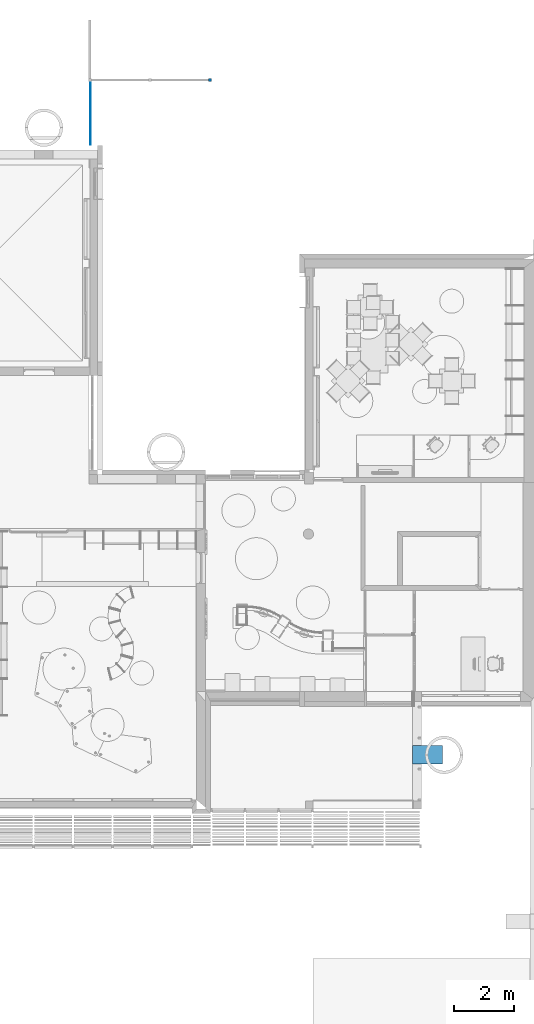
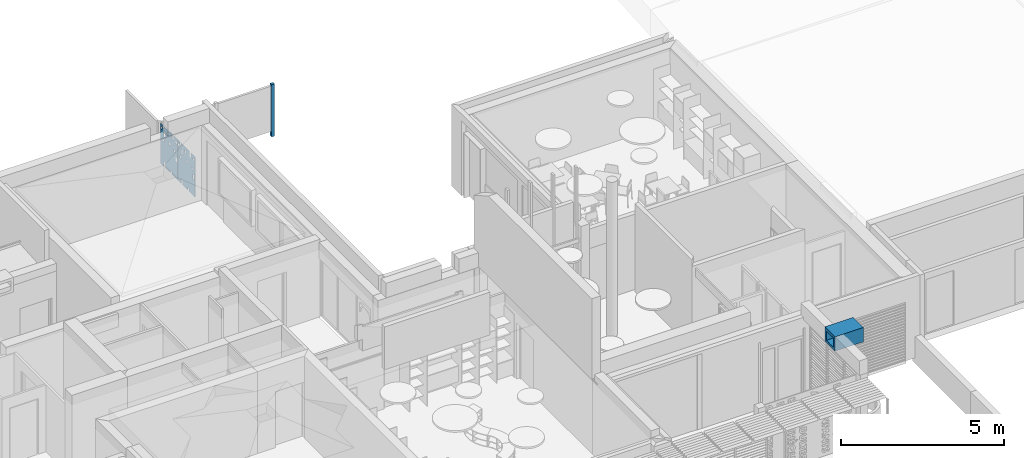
# One storey, part 6 of 64: 3 beams, 1 column.
"""IFC2X3 building model written with IfcOpenShell, lengths in metres."""

import ifcopenshell
import ifcopenshell.guid

model = None  # the IFC model being written
_history = None  # IfcOwnerHistory: only IFC2X3 demands one
_inside = {}  # id of a spatial element -> (the spatial element, [elements in it])
_under = {}  # id of a project, library or spatial element -> (it, [spatial elements below it])
_declared = {}  # id of a project -> (the project, [libraries it declares])
_typed = {}  # id of a type object -> (the type object, [elements of that type])
_made_of = {}  # id of a material, layer set ... -> (it, [elements and type objects made of it])


def new_model(schema):
    """Start an empty IFC model of exactly this schema.

    Asked for "IFC4X3", IfcOpenShell would pick the latest addendum, in which some entities
    have other attributes; the version numbers below select the first issue.
    IFC2X3 requires an IfcOwnerHistory on every rooted entity: one is made here for all.
    """
    global model, _history
    if schema == "IFC4X3":
        model = ifcopenshell.file(schema_version=(4, 3, 0, 0))
    else:
        model = ifcopenshell.file(schema=schema)
    _inside.clear()
    _under.clear()
    _declared.clear()
    _typed.clear()
    _made_of.clear()
    _history = None
    if model.schema == "IFC2X3":
        org = make("IfcOrganization", Name="unknown")
        user = make(
            "IfcPersonAndOrganization",
            ThePerson=make("IfcPerson", FamilyName="unknown"),
            TheOrganization=org,
        )
        app = make(
            "IfcApplication",
            ApplicationDeveloper=org,
            Version="unknown",
            ApplicationFullName="unknown",
            ApplicationIdentifier="unknown",
        )
        _history = make(
            "IfcOwnerHistory",
            OwningUser=user,
            OwningApplication=app,
            ChangeAction="ADDED",
            CreationDate=0,
        )
    return model


def make(cls, **values):
    """One entity of the class cls with the attributes given. An attribute that is None is left unset."""
    return model.create_entity(
        cls, **{name: value for name, value in values.items() if value is not None}
    )


def entity(cls, *values):
    """Any entity or typed value of the class cls, its attributes in the order of the schema. None: left unset."""
    e = model.create_entity(cls)
    for i, value in enumerate(values):
        if value is not None:
            e[i] = value
    return e


def rooted(cls, **values):
    """An entity with a GlobalId (a new one), such as an element, a storey or a relation."""
    return make(cls, GlobalId=ifcopenshell.guid.new(), OwnerHistory=_history, **values)


def si_unit(unit_type, name, prefix=None):
    """IfcSIUnit, for example si_unit("LENGTHUNIT", "METRE", prefix="MILLI")."""
    return make("IfcSIUnit", UnitType=unit_type, Prefix=prefix, Name=name)


def converted_unit(unit_type, name, factor, base, dimensions=None, offset=None):
    """IfcConversionBasedUnit, such as the inch: factor (a typed value) times the base unit."""
    return make(
        "IfcConversionBasedUnit"
        if offset is None
        else "IfcConversionBasedUnitWithOffset",
        ConversionOffset=offset,
        Dimensions=None
        if dimensions is None
        else entity("IfcDimensionalExponents", *dimensions),
        UnitType=unit_type,
        Name=name,
        ConversionFactor=make(
            "IfcMeasureWithUnit", ValueComponent=factor, UnitComponent=base
        ),
    )


def derived_unit(unit_type, elements):
    """IfcDerivedUnit: a product of units, each with its exponent."""
    return make(
        "IfcDerivedUnit",
        Elements=[
            make("IfcDerivedUnitElement", Unit=unit, Exponent=power)
            for unit, power in elements
        ],
        UnitType=unit_type,
    )


def assignment(units):
    """IfcUnitAssignment: the units of a project."""
    return None if units is None else make("IfcUnitAssignment", Units=units)


def point(xyz):
    """IfcCartesianPoint."""
    return None if xyz is None else make("IfcCartesianPoint", Coordinates=xyz)


def direction(xyz):
    """IfcDirection."""
    return None if xyz is None else make("IfcDirection", DirectionRatios=xyz)


def frame(location, z_axis=None, x_axis=None):
    """IfcAxis2Placement3D, a coordinate frame: its origin and axes. An axis left out is left unset."""
    return make(
        "IfcAxis2Placement3D",
        Location=point(location),
        Axis=direction(z_axis),
        RefDirection=direction(x_axis),
    )


def frame_2d(location, x_axis=None):
    """IfcAxis2Placement2D, a coordinate frame in the plane: its origin and x axis."""
    return make(
        "IfcAxis2Placement2D", Location=point(location), RefDirection=direction(x_axis)
    )


def origin():
    """The frame at (0, 0, 0) with its axes left unset."""
    return frame((0.0, 0.0, 0.0))


def origin_2d_with_axis():
    """The frame at (0, 0) in the plane with the x axis (1, 0) written out."""
    return frame_2d((0.0, 0.0), x_axis=(1.0, 0.0))


def place(relative_to, where):
    """IfcLocalPlacement: puts the frame where relative to a parent placement (None: the world)."""
    return make(
        "IfcLocalPlacement", PlacementRelTo=relative_to, RelativePlacement=where
    )


def context(
    kind, dimensions, precision=None, world=None, true_north=None, identifier=None
):
    """IfcGeometricRepresentationContext, for example the 3D "Model" context."""
    return make(
        "IfcGeometricRepresentationContext",
        ContextIdentifier=identifier,
        ContextType=kind,
        CoordinateSpaceDimension=dimensions,
        Precision=precision,
        WorldCoordinateSystem=world,
        TrueNorth=true_north,
    )


def subcontext(parent, identifier, kind, view, scale=None):
    """IfcGeometricRepresentationSubContext, for example "Body" below "Model"."""
    return make(
        "IfcGeometricRepresentationSubContext",
        ContextIdentifier=identifier,
        ContextType=kind,
        ParentContext=parent,
        TargetScale=scale,
        TargetView=view,
    )


def project(units=None, contexts=None):
    """IfcProject with its units and contexts."""
    return rooted(
        "IfcProject",
        Name="project",
        RepresentationContexts=contexts,
        UnitsInContext=assignment(units),
    )


def spatial(cls, under=None, at=None, **own):
    """A site, building, storey or space (cls), placed at a placement, below another one or the project."""
    s = rooted(cls, ObjectPlacement=at, **own)
    if under is not None:
        _under.setdefault(under.id(), (under, []))[1].append(s)
    return s


def polyline(points):
    """IfcPolyline through the points."""
    return make("IfcPolyline", Points=[point(p) for p in points])


def profile(cls, at=None, kind="AREA", **sizes):
    """A parametric profile (cls). Its sizes go by their IFC names, for example OverallWidth=200.0."""
    return make(cls, ProfileType=kind, Position=at, **sizes)


def rectangle(**sizes):
    """IfcRectangleProfileDef."""
    return profile("IfcRectangleProfileDef", **sizes)


def outline(outer, holes=None, kind="AREA"):
    """IfcArbitraryClosedProfileDef: a profile drawn as a closed curve; with holes, ...WithVoids."""
    if holes is None:
        return make("IfcArbitraryClosedProfileDef", ProfileType=kind, OuterCurve=outer)
    return make(
        "IfcArbitraryProfileDefWithVoids",
        ProfileType=kind,
        OuterCurve=outer,
        InnerCurves=holes,
    )


def extrude(swept, where, along, depth):
    """IfcExtrudedAreaSolid: the profile swept, set in the frame where, extruded along a direction by depth."""
    return make(
        "IfcExtrudedAreaSolid",
        SweptArea=swept,
        Position=where,
        ExtrudedDirection=direction(along),
        Depth=depth,
    )


def shape(context_of_items, identifier, shape_type, items):
    """IfcShapeRepresentation: the items that make up one representation, for example the "Body"."""
    return make(
        "IfcShapeRepresentation",
        ContextOfItems=context_of_items,
        RepresentationIdentifier=identifier,
        RepresentationType=shape_type,
        Items=items,
    )


def source(mapping_origin, context_of_items, identifier, shape_type, items):
    """IfcRepresentationMap: a shape defined once, which mapped items show again and again."""
    return make(
        "IfcRepresentationMap",
        MappingOrigin=mapping_origin,
        MappedRepresentation=shape(context_of_items, identifier, shape_type, items),
    )


def transform(
    local_origin,
    x_axis=None,
    y_axis=None,
    z_axis=None,
    scale=None,
    scale2=None,
    scale3=None,
    uniform=True,
):
    """IfcCartesianTransformationOperator3D, or its non-uniform kind. x_axis, y_axis, z_axis: its Axis1, 2, 3."""
    if uniform:
        return make(
            "IfcCartesianTransformationOperator3D",
            Axis1=direction(x_axis),
            Axis2=direction(y_axis),
            LocalOrigin=point(local_origin),
            Scale=scale,
            Axis3=direction(z_axis),
        )
    return make(
        "IfcCartesianTransformationOperator3DnonUniform",
        Axis1=direction(x_axis),
        Axis2=direction(y_axis),
        LocalOrigin=point(local_origin),
        Scale=scale,
        Axis3=direction(z_axis),
        Scale2=scale2,
        Scale3=scale3,
    )


def mapped(mapping_source, mapping_target):
    """IfcMappedItem: shows the shape of a source again, moved by a transform."""
    return make(
        "IfcMappedItem", MappingSource=mapping_source, MappingTarget=mapping_target
    )


def material(Name=None, Category=None):
    """IfcMaterial."""
    return make("IfcMaterial", Name=Name, Category=Category)


def made_of(thing, what):
    """Note that an element or type object is made of a material, layer set ...; save() writes the relation."""
    if what is not None:
        _made_of.setdefault(what.id(), (what, []))[1].append(thing)
    return thing


def type_object(cls, material=None, **own):
    """A type object (cls), such as IfcWallType, which elements share."""
    return made_of(rooted(cls, **own), material)


def type_shapes(of_type, sources):
    """Give a type object the sources (RepresentationMaps) that its elements show as mapped items."""
    of_type.RepresentationMaps = sources


def element(
    cls,
    number,
    at=None,
    inside=None,
    cuts=None,
    type_object=None,
    material=None,
    context=None,
    identifier="Body",
    shape_type=None,
    held_by="IfcProductDefinitionShape",
    body=None,
    shapes=None,
    **own,
):
    """One element of the class cls, such as IfcWall. Its Tag is "e" and its number.

    at: its placement. inside: the storey or other place that contains it. cuts: it is an
    opening in that element (IfcRelVoidsElement). A single representation is given by context,
    identifier, shape_type and body (its items); several are given by shapes. held_by: the class
    of the entity that holds the representations. save() writes the other relations.
    """
    e = rooted(cls, Tag="e%d" % number, ObjectPlacement=at, **own)
    if body is not None:
        shapes = [shape(context, identifier, shape_type, body)]
    if shapes is not None:
        e.Representation = make(held_by, Representations=shapes)
    if inside is not None:
        _inside.setdefault(inside.id(), (inside, []))[1].append(e)
    if cuts is not None:
        rooted(
            "IfcRelVoidsElement", RelatingBuildingElement=cuts, RelatedOpeningElement=e
        )
    if type_object is not None:
        _typed.setdefault(type_object.id(), (type_object, []))[1].append(e)
    return made_of(e, material)


def aggregate(whole, parts):
    """IfcRelAggregates: a whole, such as a stair, and the parts it consists of."""
    return rooted("IfcRelAggregates", RelatingObject=whole, RelatedObjects=parts)


def save(model, path):
    """Write the relations noted so far, then the file.

    IfcRelAggregates (storeys below a building ...), IfcRelContainedInSpatialStructure (elements
    in a storey), IfcRelDefinesByType, IfcRelAssociatesMaterial and IfcRelDeclares: one each for
    every whole, place, type object, material and project.
    """
    for whole, parts in _under.values():
        aggregate(whole, parts)
    for where, things in _inside.values():
        rooted(
            "IfcRelContainedInSpatialStructure",
            RelatedElements=things,
            RelatingStructure=where,
        )
    for kind, things in _typed.values():
        rooted("IfcRelDefinesByType", RelatedObjects=things, RelatingType=kind)
    for what, things in _made_of.values():
        rooted("IfcRelAssociatesMaterial", RelatedObjects=things, RelatingMaterial=what)
    for by, libraries in _declared.values():
        rooted("IfcRelDeclares", RelatingContext=by, RelatedDefinitions=libraries)
    model.write(path)


model = new_model("IFC2X3")

# Units and contexts
model_context = context("Model", 3, precision=1e-05, world=origin(), true_north=direction((6.123031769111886e-17, 1.0)))
body_context = subcontext(model_context, "Body", "Model", "MODEL_VIEW")
ifc_project = project(units=[si_unit("LENGTHUNIT", "METRE"), si_unit("AREAUNIT", "SQUARE_METRE"), si_unit("VOLUMEUNIT", "CUBIC_METRE"), converted_unit("PLANEANGLEUNIT", "DEGREE", entity("IfcRatioMeasure", 0.017453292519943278), si_unit("PLANEANGLEUNIT", "RADIAN"), dimensions=[0, 0, 0, 0, 0, 0, 0]), si_unit("MASSUNIT", "GRAM", prefix="KILO"), derived_unit("MASSDENSITYUNIT", [(si_unit("MASSUNIT", "GRAM", prefix="KILO"), 1), (si_unit("LENGTHUNIT", "METRE"), -3)]), derived_unit("MOMENTOFINERTIAUNIT", [(si_unit("LENGTHUNIT", "METRE"), 4)]), si_unit("TIMEUNIT", "SECOND"), si_unit("FREQUENCYUNIT", "HERTZ"), si_unit("THERMODYNAMICTEMPERATUREUNIT", "DEGREE_CELSIUS"), derived_unit("THERMALTRANSMITTANCEUNIT", [(si_unit("MASSUNIT", "GRAM", prefix="KILO"), 1), (si_unit("THERMODYNAMICTEMPERATUREUNIT", "KELVIN"), -1), (si_unit("TIMEUNIT", "SECOND"), -3)]), derived_unit("THERMALCONDUCTANCEUNIT", [(si_unit("MASSUNIT", "GRAM", prefix="KILO"), 1), (si_unit("LENGTHUNIT", "METRE"), 1), (si_unit("THERMODYNAMICTEMPERATUREUNIT", "KELVIN"), -1), (si_unit("TIMEUNIT", "SECOND"), -3)]), derived_unit("VOLUMETRICFLOWRATEUNIT", [(si_unit("LENGTHUNIT", "METRE"), 3), (si_unit("TIMEUNIT", "SECOND"), -1)]), derived_unit("MASSFLOWRATEUNIT", [(si_unit("MASSUNIT", "GRAM", prefix="KILO"), 1), (si_unit("TIMEUNIT", "SECOND"), -1)]), derived_unit("ROTATIONALFREQUENCYUNIT", [(si_unit("TIMEUNIT", "SECOND"), -1)]), si_unit("ELECTRICCURRENTUNIT", "AMPERE"), si_unit("ELECTRICVOLTAGEUNIT", "VOLT"), si_unit("POWERUNIT", "WATT"), si_unit("FORCEUNIT", "NEWTON", prefix="KILO"), si_unit("ILLUMINANCEUNIT", "LUX"), si_unit("LUMINOUSFLUXUNIT", "LUMEN"), si_unit("LUMINOUSINTENSITYUNIT", "CANDELA"), derived_unit("USERDEFINED", [(si_unit("MASSUNIT", "GRAM", prefix="KILO"), -1), (si_unit("LENGTHUNIT", "METRE"), -2), (si_unit("TIMEUNIT", "SECOND"), 3), (si_unit("LUMINOUSFLUXUNIT", "LUMEN"), 1)]), derived_unit("USERDEFINED", [(si_unit("MASSUNIT", "GRAM", prefix="KILO"), 1), (si_unit("LENGTHUNIT", "METRE"), 3), (si_unit("TIMEUNIT", "SECOND"), -3), (si_unit("ELECTRICCURRENTUNIT", "AMPERE"), -2)]), derived_unit("USERDEFINED", [(si_unit("LENGTHUNIT", "METRE"), 2), (si_unit("TIMEUNIT", "SECOND"), -2)]), derived_unit("SOUNDPOWERUNIT", [(si_unit("MASSUNIT", "GRAM", prefix="KILO"), 1), (si_unit("LENGTHUNIT", "METRE"), 2), (si_unit("TIMEUNIT", "SECOND"), -3)]), derived_unit("SOUNDPRESSUREUNIT", [(si_unit("MASSUNIT", "GRAM", prefix="KILO"), 1), (si_unit("LENGTHUNIT", "METRE"), -1), (si_unit("TIMEUNIT", "SECOND"), -2)]), derived_unit("LINEARVELOCITYUNIT", [(si_unit("LENGTHUNIT", "METRE"), 1), (si_unit("TIMEUNIT", "SECOND"), -1)]), si_unit("PRESSUREUNIT", "PASCAL"), derived_unit("USERDEFINED", [(si_unit("LENGTHUNIT", "METRE"), -2), (si_unit("MASSUNIT", "GRAM", prefix="KILO"), 1), (si_unit("TIMEUNIT", "SECOND"), -2)]), derived_unit("LINEARFORCEUNIT", [(si_unit("MASSUNIT", "GRAM", prefix="KILO"), 1), (si_unit("LENGTHUNIT", "METRE"), 1), (si_unit("TIMEUNIT", "SECOND"), -2), (si_unit("LENGTHUNIT", "METRE"), -1)]), derived_unit("PLANARFORCEUNIT", [(si_unit("MASSUNIT", "GRAM", prefix="KILO"), 1), (si_unit("LENGTHUNIT", "METRE"), 1), (si_unit("TIMEUNIT", "SECOND"), -2), (si_unit("LENGTHUNIT", "METRE"), -2)]), derived_unit("SPECIFICHEATCAPACITYUNIT", [(si_unit("LENGTHUNIT", "METRE"), 2), (si_unit("TIMEUNIT", "SECOND"), -2), (si_unit("THERMODYNAMICTEMPERATUREUNIT", "KELVIN"), -1)]), derived_unit("VAPORPERMEABILITYUNIT", [(si_unit("TIMEUNIT", "SECOND"), 1), (si_unit("LENGTHUNIT", "METRE"), -1)]), derived_unit("DYNAMICVISCOSITYUNIT", [(si_unit("MASSUNIT", "GRAM", prefix="KILO"), 1), (si_unit("LENGTHUNIT", "METRE"), -1), (si_unit("TIMEUNIT", "SECOND"), -1)]), derived_unit("THERMALEXPANSIONCOEFFICIENTUNIT", [(si_unit("THERMODYNAMICTEMPERATUREUNIT", "KELVIN"), -1)])], contexts=[model_context])

# Site, building, storey
site_placement = place(None, origin())
site = spatial("IfcSite", under=ifc_project, at=site_placement, Name="Default", CompositionType="ELEMENT")
building_placement = place(site_placement, origin())
building = spatial("IfcBuilding", under=site, at=building_placement, CompositionType="ELEMENT")
storey_placement = place(building_placement, origin())
storey = spatial("IfcBuildingStorey", under=building, at=storey_placement, Name="REZ-DE-CHAUSSÉE", CompositionType="ELEMENT", Elevation=0.0)

# Column
ifc_material_1 = material(Name="Béton - Lissé")
column_type = type_object("IfcColumnType", Name="Pot-011 135416:Pot-011 135416", PredefinedType="COLUMN", material=ifc_material_1)
shared_shape = source(origin(), body_context, "Body", "SweptSolid", [
    extrude(rectangle(XDim=0.1, YDim=0.1, at=origin_2d_with_axis()), frame((0.0, 0.0, -0.6000000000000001), z_axis=(0.0, 0.0, 1.0), x_axis=(0.0, -1.0, 0.0)), (0.0, 0.0, 1.0), 1.9500000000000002),
])
type_shapes(column_type, [shared_shape])
column_placement = place(storey_placement, frame((117.53075227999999, 28.457209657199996, 0.0)))
element("IfcColumn", 1, at=column_placement, inside=storey, type_object=column_type, material=ifc_material_1, Name="Pot-011", ObjectType="Pot-011 135416:Pot-011 135416", context=body_context, shape_type="MappedRepresentation", body=[
    mapped(shared_shape, transform((0.0, 0.0, 0.0), scale=1.0)),
])

# Beams
ifc_material_2 = material(Name="Enduit - Beige nature")
beam_type_1 = type_object("IfcBeamType", Name="Poutre-005 250586:Poutre-005 250586", PredefinedType="NOTDEFINED")
beam_1_placement = place(storey_placement, origin())
element("IfcBeam", 2, at=beam_1_placement, inside=storey, type_object=beam_type_1, material=ifc_material_2, Name="Poutre-005", ObjectType="Poutre-005 250586:Poutre-005 250586", context=body_context, shape_type="SweptSolid", body=[
    extrude(outline(polyline([(-0.27000000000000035, -0.30999999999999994), (0.2699999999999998, -0.30999999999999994), (0.2699999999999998, 0.30999999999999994), (-0.27000000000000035, 0.30999999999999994), (-0.27000000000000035, -0.30999999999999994)]), holes=[polyline([(0.1699999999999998, 0.2199999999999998), (0.1699999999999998, -0.2199999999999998), (-0.17000000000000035, -0.2099999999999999), (-0.1900000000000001, 0.0), (-0.17000000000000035, 0.2099999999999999), (0.1699999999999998, 0.2199999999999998)])]), frame((124.28075226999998, 5.967209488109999, 3.0700000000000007), z_axis=(1.0, 0.0, 0.0), x_axis=(0.0, 0.0, 1.0)), (0.0, 0.0, 1.0), 1.0050000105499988),
])
ifc_material_3 = material(Name="Peinture - Gris foncé")
beam_type_2 = type_object("IfcBeamType", Name="Poutre-018 48198:Poutre-018 48198", PredefinedType="NOTDEFINED")
beam_2_placement = place(storey_placement, origin())
element("IfcBeam", 3, at=beam_2_placement, inside=storey, type_object=beam_type_2, material=ifc_material_3, Name="Poutre-018", ObjectType="Poutre-018 48198:Poutre-018 48198", context=body_context, shape_type="SweptSolid", body=[
    extrude(outline(polyline([(0.33874999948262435, -0.5743749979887), (0.5437499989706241, -0.5743749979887), (0.5437499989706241, 0.9256250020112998), (-0.16124999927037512, 0.9256250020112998), (-0.16124999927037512, 0.7306250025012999), (-0.2512499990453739, 0.7306250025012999), (-0.2512499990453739, 0.9256250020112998), (-0.5062500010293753, 0.9256250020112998), (-0.5062500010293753, -0.5743749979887), (-0.1512499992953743, -0.5743749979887), (-0.1512499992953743, -0.4793749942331), (-0.061249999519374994, -0.4793749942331), (-0.061249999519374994, -0.5743749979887), (0.24874999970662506, -0.5743749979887), (0.24874999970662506, -0.3793750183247), (0.33874999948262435, -0.3793750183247), (0.33874999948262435, -0.5743749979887)]), holes=[polyline([(0.33874999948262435, 0.5306250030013), (0.24874999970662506, 0.5306250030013), (0.24874999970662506, 0.7206250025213), (0.33874999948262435, 0.7206250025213), (0.33874999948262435, 0.5306250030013)]), polyline([(0.3487499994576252, 0.4206250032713), (0.4387499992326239, 0.4206250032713), (0.4387499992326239, 0.33062500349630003), (0.3487499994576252, 0.33062500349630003), (0.3487499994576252, 0.4206250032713)]), polyline([(0.03875000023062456, 0.5206250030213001), (0.03875000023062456, 0.4306250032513), (-0.05124999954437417, 0.4306250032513), (-0.05124999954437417, 0.5206250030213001), (0.03875000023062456, 0.5206250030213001)]), polyline([(-0.351249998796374, 0.4206250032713), (-0.26124999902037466, 0.4206250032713), (-0.26124999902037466, 0.33062500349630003), (-0.351249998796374, 0.33062500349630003), (-0.351249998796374, 0.4206250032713)]), polyline([(-0.3612499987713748, 0.22062500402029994), (-0.3612499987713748, 0.0306250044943), (-0.45124999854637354, 0.0306250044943), (-0.45124999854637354, 0.22062500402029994), (-0.3612499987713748, 0.22062500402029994)]), polyline([(0.5387499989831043, 0.8206250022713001), (0.5387499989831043, 0.7306250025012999), (0.44874999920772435, 0.7306250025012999), (0.44874999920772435, 0.8206250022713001), (0.5387499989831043, 0.8206250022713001)]), polyline([(0.3487499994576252, 0.9206250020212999), (0.4387499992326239, 0.9206250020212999), (0.4387499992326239, 0.8306250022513), (0.3487499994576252, 0.8306250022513), (0.3487499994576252, 0.9206250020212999)]), polyline([(0.13874999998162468, 0.8206250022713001), (0.13874999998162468, 0.7306250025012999), (0.048750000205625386, 0.7306250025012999), (0.048750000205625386, 0.8206250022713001), (0.13874999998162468, 0.8206250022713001)]), polyline([(-0.3612499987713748, 0.8206250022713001), (-0.3612499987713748, 0.7306250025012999), (-0.45124999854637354, 0.7306250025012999), (-0.45124999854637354, 0.8206250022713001), (-0.3612499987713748, 0.8206250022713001)])]), frame((113.55075228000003, 26.803459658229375, 0.37437499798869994), z_axis=(1.0, 0.0, 0.0), x_axis=(0.0, 1.0, 0.0)), (0.0, 0.0, 1.0), 0.009999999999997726),
])
beam_3_placement = place(storey_placement, origin())
element("IfcBeam", 4, at=beam_3_placement, inside=storey, type_object=beam_type_2, material=ifc_material_3, Name="Poutre-018", ObjectType="Poutre-018 48198:Poutre-018 48198", context=body_context, shape_type="SweptSolid", body=[
    extrude(outline(polyline([(0.33874999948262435, -0.5743749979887), (0.5437499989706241, -0.5743749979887), (0.5437499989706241, 0.9256250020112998), (-0.16124999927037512, 0.9256250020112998), (-0.16124999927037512, 0.7306250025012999), (-0.2512499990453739, 0.7306250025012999), (-0.2512499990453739, 0.9256250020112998), (-0.5062500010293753, 0.9256250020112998), (-0.5062500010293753, -0.5743749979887), (-0.1512499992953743, -0.5743749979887), (-0.1512499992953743, -0.4793749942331), (-0.061249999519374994, -0.4793749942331), (-0.061249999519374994, -0.5743749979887), (0.24874999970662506, -0.5743749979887), (0.24874999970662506, -0.3793750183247), (0.33874999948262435, -0.3793750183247), (0.33874999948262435, -0.5743749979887)]), holes=[polyline([(0.33874999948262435, 0.5306250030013), (0.24874999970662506, 0.5306250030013), (0.24874999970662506, 0.7206250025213), (0.33874999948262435, 0.7206250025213), (0.33874999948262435, 0.5306250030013)]), polyline([(0.3487499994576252, 0.4206250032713), (0.4387499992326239, 0.4206250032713), (0.4387499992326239, 0.33062500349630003), (0.3487499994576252, 0.33062500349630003), (0.3487499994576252, 0.4206250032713)]), polyline([(0.03875000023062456, 0.5206250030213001), (0.03875000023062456, 0.4306250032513), (-0.05124999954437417, 0.4306250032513), (-0.05124999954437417, 0.5206250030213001), (0.03875000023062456, 0.5206250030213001)]), polyline([(-0.351249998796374, 0.4206250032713), (-0.26124999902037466, 0.4206250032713), (-0.26124999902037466, 0.33062500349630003), (-0.351249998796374, 0.33062500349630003), (-0.351249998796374, 0.4206250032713)]), polyline([(-0.3612499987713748, 0.22062500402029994), (-0.3612499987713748, 0.0306250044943), (-0.45124999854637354, 0.0306250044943), (-0.45124999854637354, 0.22062500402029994), (-0.3612499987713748, 0.22062500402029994)]), polyline([(0.5387499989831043, 0.8206250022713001), (0.5387499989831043, 0.7306250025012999), (0.44874999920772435, 0.7306250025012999), (0.44874999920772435, 0.8206250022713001), (0.5387499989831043, 0.8206250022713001)]), polyline([(0.3487499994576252, 0.9206250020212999), (0.4387499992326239, 0.9206250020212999), (0.4387499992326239, 0.8306250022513), (0.3487499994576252, 0.8306250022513), (0.3487499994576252, 0.9206250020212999)]), polyline([(0.13874999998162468, 0.8206250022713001), (0.13874999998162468, 0.7306250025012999), (0.048750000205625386, 0.7306250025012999), (0.048750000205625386, 0.8206250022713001), (0.13874999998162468, 0.8206250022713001)]), polyline([(-0.3612499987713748, 0.8206250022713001), (-0.3612499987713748, 0.7306250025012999), (-0.45124999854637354, 0.7306250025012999), (-0.45124999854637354, 0.8206250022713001), (-0.3612499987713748, 0.8206250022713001)])]), frame((113.55075228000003, 27.863459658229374, 0.37437499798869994), z_axis=(1.0, 0.0, 0.0), x_axis=(0.0, 1.0, 0.0)), (0.0, 0.0, 1.0), 0.009999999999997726),
])

save(model, "model.ifc")
